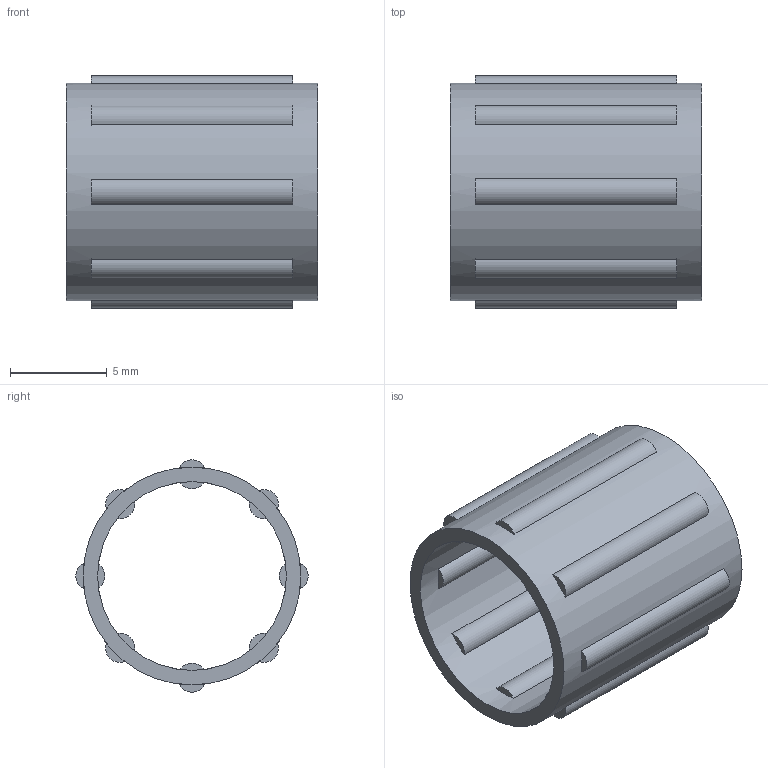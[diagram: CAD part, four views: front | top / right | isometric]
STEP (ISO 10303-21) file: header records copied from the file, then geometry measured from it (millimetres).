
FILE_DESCRIPTION(/* description */ ('-Douille à aiguilles sans fond'),/* implementation_level */ '2;1');
FILE_NAME(/* name */ 'D:\moje\parametrické\Katalóg ihlovích ložísk\01-Ihlové klietky s ihlami\K__x__x__\K9x12x13TN.stp',/* time_stamp */ '2016-10-27T13:49:23+02:00',/* author */ ('OUBALASKO'),/* organization */ ('EMILEMAURIN'),/* preprocessor_version */ 'ST-DEVELOPER v15.6',/* originating_system */ 'Autodesk Inventor 2015',/* authorisation */ '');
FILE_SCHEMA (('AUTOMOTIVE_DESIGN { 1 0 10303 214 3 1 1 }'));
Length unit declared in the file: millimetre
Products named in the file (3): K9x12x13TN-cage; K9x12x13TN-needle; K9x12x13TN
Assembly tree (9 placements, depth 2):
  K9x12x13TN
    K9x12x13TN-cage
    K9x12x13TN-needle  x8
Bounding box: 13 x 12 x 12 mm (x, y, z)
Volume: 379.1 mm3; surface area: 1259.5 mm2
Topology: 9 solids, 9 shells, 60 faces, 132 edges, 88 vertices
Faces by surface type: plane 34, cylinder 26
Full cylindrical faces by diameter (mm): 1.5 x8, 9.75 x1, 11.25 x1
Entity records: 1450 total; most frequent: DIRECTION 274, CARTESIAN_POINT 223, ORIENTED_EDGE 204, AXIS2_PLACEMENT_3D 121, EDGE_CURVE 102, CIRCLE 70, VERTEX_POINT 70, EDGE_LOOP 60
